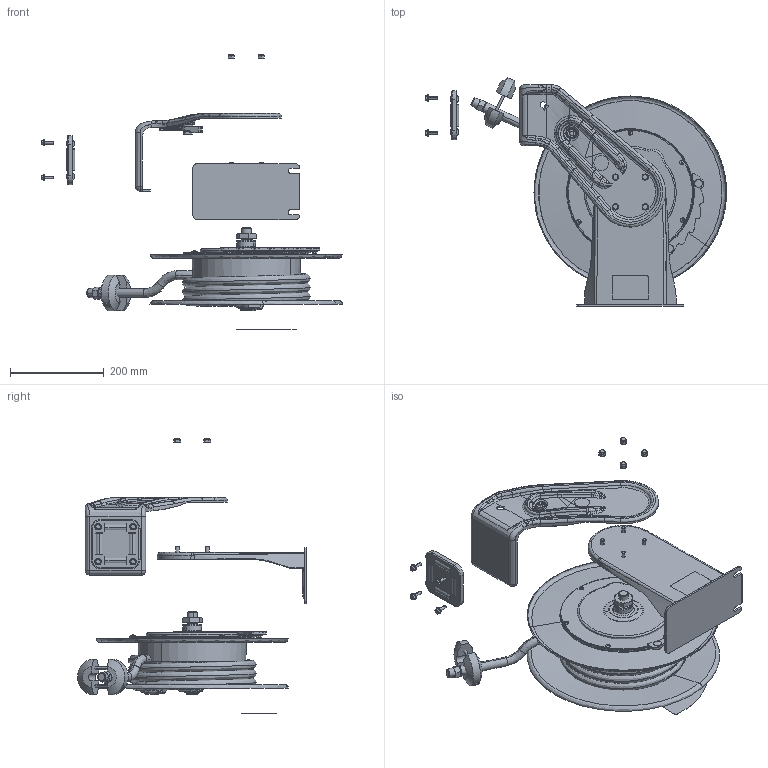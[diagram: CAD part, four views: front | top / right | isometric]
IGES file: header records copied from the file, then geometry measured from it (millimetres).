
Start section:  PTC IGES file: hph5ha-en-e.igs
Global section: file name: hph5ha-en-e.igs; native system: Creo Parametric by PTC Inc.; preprocessor: 2019030; author: qusrh3; organization: Unknown; date: 20200101.120911; units: inch
Bounding box: 644.15 x 489.52 x 589.92 mm (x, y, z)
Surface area: 1424718.3 mm2 (no closed solid volume)
Topology: 0 solids, 0 shells, 1516 faces, 6893 edges, 6881 vertices
Faces by surface type: revolution 852, bspline 662, extrusion 2
